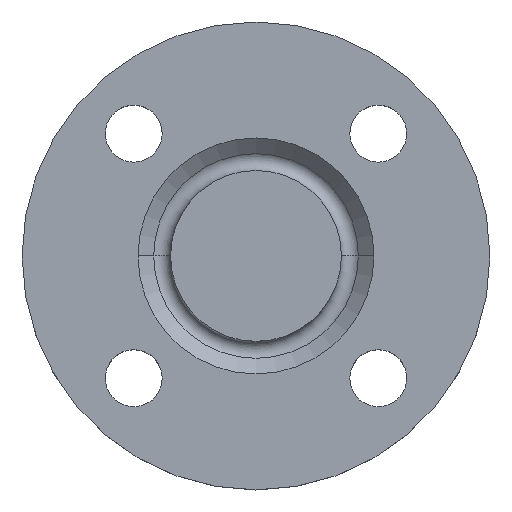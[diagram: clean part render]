
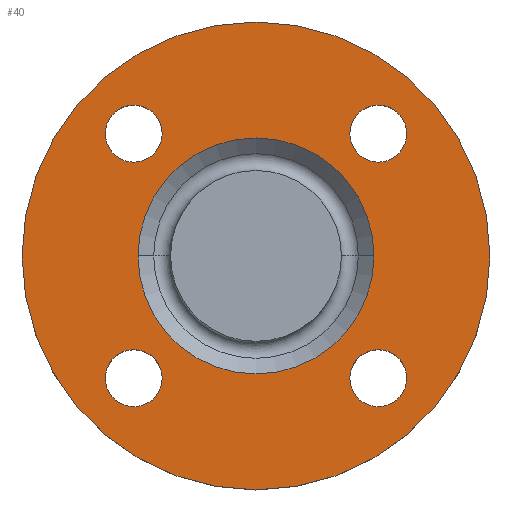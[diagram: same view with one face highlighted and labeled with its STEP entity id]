
A CAD part, top view. The second image highlights one B-rep face of the part: STEP entity #40.
In plain terms, the highlighted planar face has unit normal (0, 0, 1).
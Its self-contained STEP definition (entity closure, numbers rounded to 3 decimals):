
#1 = CARTESIAN_POINT ( 'NONE',  ( -30.052, -30.052, -2. ) ) ;
#3 = CIRCLE ( 'NONE', #121, 7. ) ;
#27 = EDGE_CURVE ( 'NONE', #395, #404, #368, .T. ) ;
#37 = AXIS2_PLACEMENT_3D ( 'NONE', #287, #289, #290 ) ;
#40 = ADVANCED_FACE ( 'NONE', ( #612, #614, #615, #616, #619, #620 ), #621, .T. ) ;
#43 = DIRECTION ( 'NONE',  ( -1., 0., 0. ) ) ;
#44 = DIRECTION ( 'NONE',  ( 0., 0., -1. ) ) ;
#45 = CARTESIAN_POINT ( 'NONE',  ( 0., 0., -2. ) ) ;
#78 = EDGE_CURVE ( 'NONE', #401, #508, #187, .T. ) ;
#80 = DIRECTION ( 'NONE',  ( 1., 0., 0. ) ) ;
#82 = EDGE_CURVE ( 'NONE', #374, #396, #366, .T. ) ;
#84 = DIRECTION ( 'NONE',  ( 1., 0., 0. ) ) ;
#85 = DIRECTION ( 'NONE',  ( 0., 0., -1. ) ) ;
#88 = CARTESIAN_POINT ( 'NONE',  ( 30.052, 30.052, -2. ) ) ;
#89 = AXIS2_PLACEMENT_3D ( 'NONE', #88, #85, #84 ) ;
#93 = AXIS2_PLACEMENT_3D ( 'NONE', #731, #732, #735 ) ;
#106 = CIRCLE ( 'NONE', #713, 7. ) ;
#107 = CIRCLE ( 'NONE', #89, 7. ) ;
#108 = CIRCLE ( 'NONE', #119, 7. ) ;
#113 = DIRECTION ( 'NONE',  ( 0., 0., -1. ) ) ;
#119 = AXIS2_PLACEMENT_3D ( 'NONE', #1, #120, #126 ) ;
#120 = DIRECTION ( 'NONE',  ( 0., 0., -1. ) ) ;
#121 = AXIS2_PLACEMENT_3D ( 'NONE', #749, #113, #80 ) ;
#126 = DIRECTION ( 'NONE',  ( 1., 0., 0. ) ) ;
#135 = AXIS2_PLACEMENT_3D ( 'NONE', #724, #725, #170 ) ;
#136 = CIRCLE ( 'NONE', #135, 7. ) ;
#137 = CARTESIAN_POINT ( 'NONE',  ( -30.052, 30.052, -2. ) ) ;
#140 = CARTESIAN_POINT ( 'NONE',  ( 23.052, 30.052, -2. ) ) ;
#141 = DIRECTION ( 'NONE',  ( 0., 0., -1. ) ) ;
#159 = DIRECTION ( 'NONE',  ( 1., 0., 0. ) ) ;
#164 = CIRCLE ( 'NONE', #93, 7. ) ;
#170 = DIRECTION ( 'NONE',  ( 1., 0., 0. ) ) ;
#187 = CIRCLE ( 'NONE', #198, 57.5 ) ;
#194 = CARTESIAN_POINT ( 'NONE',  ( 30.052, 30.052, -2. ) ) ;
#195 = DIRECTION ( 'NONE',  ( 0., 0., -1. ) ) ;
#196 = DIRECTION ( 'NONE',  ( 1., 0., 0. ) ) ;
#198 = AXIS2_PLACEMENT_3D ( 'NONE', #647, #648, #649 ) ;
#219 = AXIS2_PLACEMENT_3D ( 'NONE', #593, #594, #595 ) ;
#236 = CARTESIAN_POINT ( 'NONE',  ( 23.052, -30.052, -2. ) ) ;
#256 = CIRCLE ( 'NONE', #386, 7. ) ;
#257 = EDGE_CURVE ( 'NONE', #396, #374, #164, .T. ) ;
#276 = CARTESIAN_POINT ( 'NONE',  ( -29., 0., -2. ) ) ;
#277 = CARTESIAN_POINT ( 'NONE',  ( 37.052, -30.052, -2. ) ) ;
#281 = CARTESIAN_POINT ( 'NONE',  ( 57.5, 0., -2. ) ) ;
#282 = CARTESIAN_POINT ( 'NONE',  ( 29., 0., -2. ) ) ;
#283 = AXIS2_PLACEMENT_3D ( 'NONE', #45, #44, #43 ) ;
#285 = CIRCLE ( 'NONE', #283, 57.5 ) ;
#286 = CARTESIAN_POINT ( 'NONE',  ( -37.052, 30.052, -2. ) ) ;
#287 = CARTESIAN_POINT ( 'NONE',  ( 0., 0., -2. ) ) ;
#289 = DIRECTION ( 'NONE',  ( 0., 0., -1. ) ) ;
#290 = DIRECTION ( 'NONE',  ( -1., 0., 0. ) ) ;
#292 = CARTESIAN_POINT ( 'NONE',  ( -37.052, -30.052, -2. ) ) ;
#298 = CARTESIAN_POINT ( 'NONE',  ( -57.5, 0., -2. ) ) ;
#310 = EDGE_CURVE ( 'NONE', #442, #553, #3, .T. ) ;
#315 = CARTESIAN_POINT ( 'NONE',  ( 37.052, 30.052, -2. ) ) ;
#321 = CIRCLE ( 'NONE', #37, 29. ) ;
#331 = CARTESIAN_POINT ( 'NONE',  ( -23.052, -30.052, -2. ) ) ;
#333 = CARTESIAN_POINT ( 'NONE',  ( -23.052, 30.052, -2. ) ) ;
#356 = EDGE_CURVE ( 'NONE', #539, #560, #256, .T. ) ;
#365 = AXIS2_PLACEMENT_3D ( 'NONE', #650, #651, #652 ) ;
#366 = CIRCLE ( 'NONE', #365, 7. ) ;
#368 = CIRCLE ( 'NONE', #219, 29. ) ;
#374 = VERTEX_POINT ( 'NONE', #236 ) ;
#386 = AXIS2_PLACEMENT_3D ( 'NONE', #194, #195, #196 ) ;
#387 = ORIENTED_EDGE ( 'NONE', *, *, #257, .T. ) ;
#388 = ORIENTED_EDGE ( 'NONE', *, *, #82, .T. ) ;
#389 = ORIENTED_EDGE ( 'NONE', *, *, #632, .T. ) ;
#390 = ORIENTED_EDGE ( 'NONE', *, *, #310, .T. ) ;
#391 = ORIENTED_EDGE ( 'NONE', *, *, #587, .T. ) ;
#392 = ORIENTED_EDGE ( 'NONE', *, *, #656, .T. ) ;
#395 = VERTEX_POINT ( 'NONE', #276 ) ;
#396 = VERTEX_POINT ( 'NONE', #277 ) ;
#401 = VERTEX_POINT ( 'NONE', #281 ) ;
#402 = EDGE_LOOP ( 'NONE', ( #473, #474 ) ) ;
#404 = VERTEX_POINT ( 'NONE', #282 ) ;
#406 = EDGE_LOOP ( 'NONE', ( #391, #392 ) ) ;
#408 = VERTEX_POINT ( 'NONE', #286 ) ;
#410 = EDGE_LOOP ( 'NONE', ( #468, #470 ) ) ;
#414 = EDGE_CURVE ( 'NONE', #404, #395, #321, .T. ) ;
#430 = EDGE_LOOP ( 'NONE', ( #389, #390 ) ) ;
#442 = VERTEX_POINT ( 'NONE', #292 ) ;
#451 = EDGE_LOOP ( 'NONE', ( #471, #472 ) ) ;
#468 = ORIENTED_EDGE ( 'NONE', *, *, #356, .T. ) ;
#470 = ORIENTED_EDGE ( 'NONE', *, *, #696, .T. ) ;
#471 = ORIENTED_EDGE ( 'NONE', *, *, #414, .T. ) ;
#472 = ORIENTED_EDGE ( 'NONE', *, *, #27, .T. ) ;
#473 = ORIENTED_EDGE ( 'NONE', *, *, #78, .F. ) ;
#474 = ORIENTED_EDGE ( 'NONE', *, *, #748, .F. ) ;
#508 = VERTEX_POINT ( 'NONE', #298 ) ;
#539 = VERTEX_POINT ( 'NONE', #315 ) ;
#552 = EDGE_LOOP ( 'NONE', ( #387, #388 ) ) ;
#553 = VERTEX_POINT ( 'NONE', #331 ) ;
#554 = VERTEX_POINT ( 'NONE', #333 ) ;
#560 = VERTEX_POINT ( 'NONE', #140 ) ;
#569 = AXIS2_PLACEMENT_3D ( 'NONE', #622, #624, #625 ) ;
#587 = EDGE_CURVE ( 'NONE', #554, #408, #106, .T. ) ;
#593 = CARTESIAN_POINT ( 'NONE',  ( 0., 0., -2. ) ) ;
#594 = DIRECTION ( 'NONE',  ( 0., 0., -1. ) ) ;
#595 = DIRECTION ( 'NONE',  ( -1., 0., 0. ) ) ;
#612 = FACE_BOUND ( 'NONE', #552, .T. ) ;
#614 = FACE_BOUND ( 'NONE', #430, .T. ) ;
#615 = FACE_BOUND ( 'NONE', #406, .T. ) ;
#616 = FACE_BOUND ( 'NONE', #410, .T. ) ;
#619 = FACE_BOUND ( 'NONE', #451, .T. ) ;
#620 = FACE_OUTER_BOUND ( 'NONE', #402, .T. ) ;
#621 = PLANE ( 'NONE',  #569 ) ;
#622 = CARTESIAN_POINT ( 'NONE',  ( 57.5, 0., -2. ) ) ;
#624 = DIRECTION ( 'NONE',  ( 0., 0., 1. ) ) ;
#625 = DIRECTION ( 'NONE',  ( 1., 0., 0. ) ) ;
#632 = EDGE_CURVE ( 'NONE', #553, #442, #108, .T. ) ;
#647 = CARTESIAN_POINT ( 'NONE',  ( 0., 0., -2. ) ) ;
#648 = DIRECTION ( 'NONE',  ( 0., 0., -1. ) ) ;
#649 = DIRECTION ( 'NONE',  ( -1., 0., 0. ) ) ;
#650 = CARTESIAN_POINT ( 'NONE',  ( 30.052, -30.052, -2. ) ) ;
#651 = DIRECTION ( 'NONE',  ( 0., 0., -1. ) ) ;
#652 = DIRECTION ( 'NONE',  ( 1., 0., 0. ) ) ;
#656 = EDGE_CURVE ( 'NONE', #408, #554, #136, .T. ) ;
#696 = EDGE_CURVE ( 'NONE', #560, #539, #107, .T. ) ;
#713 = AXIS2_PLACEMENT_3D ( 'NONE', #137, #141, #159 ) ;
#724 = CARTESIAN_POINT ( 'NONE',  ( -30.052, 30.052, -2. ) ) ;
#725 = DIRECTION ( 'NONE',  ( 0., 0., -1. ) ) ;
#731 = CARTESIAN_POINT ( 'NONE',  ( 30.052, -30.052, -2. ) ) ;
#732 = DIRECTION ( 'NONE',  ( 0., 0., -1. ) ) ;
#735 = DIRECTION ( 'NONE',  ( 1., 0., 0. ) ) ;
#748 = EDGE_CURVE ( 'NONE', #508, #401, #285, .T. ) ;
#749 = CARTESIAN_POINT ( 'NONE',  ( -30.052, -30.052, -2. ) ) ;
